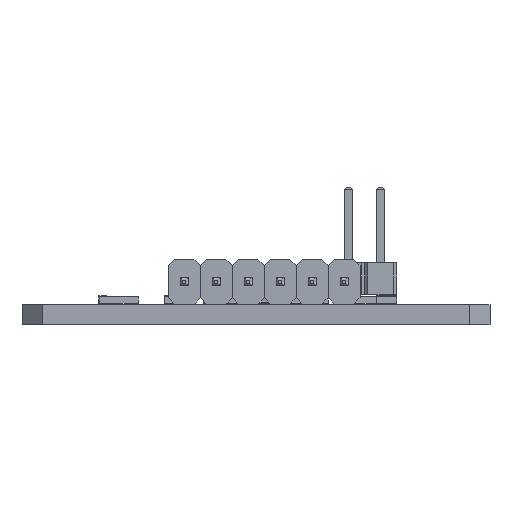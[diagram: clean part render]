
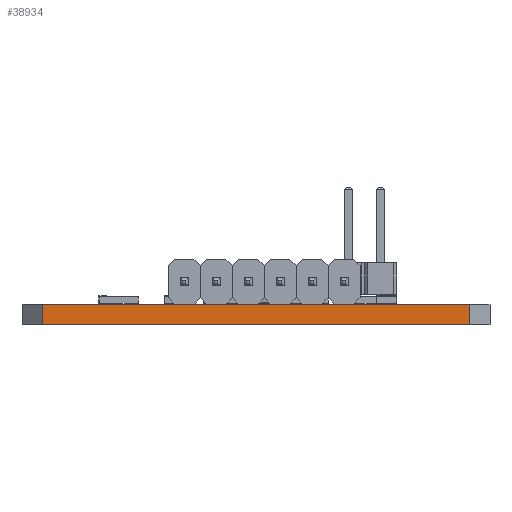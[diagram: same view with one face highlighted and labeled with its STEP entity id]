
A CAD part, front view. The second image highlights one B-rep face of the part: STEP entity #38934.
In plain terms, the highlighted planar face has unit normal (0, -1, 0).
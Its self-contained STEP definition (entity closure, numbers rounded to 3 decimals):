
#37916 = PLANE('',#37917);
#37917 = AXIS2_PLACEMENT_3D('',#37918,#37919,#37920);
#37918 = CARTESIAN_POINT('',(118.2,-127.2,1.6));
#37919 = DIRECTION('',(0.,0.,-1.));
#37920 = DIRECTION('',(-1.,0.,0.));
#37970 = PLANE('',#37971);
#37971 = AXIS2_PLACEMENT_3D('',#37972,#37973,#37974);
#37972 = CARTESIAN_POINT('',(118.2,-127.2,0.));
#37973 = DIRECTION('',(0.,0.,-1.));
#37974 = DIRECTION('',(-1.,0.,0.));
#38163 = VERTEX_POINT('',#38164);
#38164 = CARTESIAN_POINT('',(135.2,-148.8,0.));
#38178 = PLANE('',#38179);
#38179 = AXIS2_PLACEMENT_3D('',#38180,#38181,#38182);
#38180 = CARTESIAN_POINT('',(136.8,-147.2,0.));
#38181 = DIRECTION('',(0.707,-0.707,0.));
#38182 = DIRECTION('',(-0.707,-0.707,0.));
#38190 = EDGE_CURVE('',#38163,#38191,#38193,.T.);
#38191 = VERTEX_POINT('',#38192);
#38192 = CARTESIAN_POINT('',(101.2,-148.8,0.));
#38193 = SURFACE_CURVE('',#38194,(#38198,#38205),.PCURVE_S1.);
#38194 = LINE('',#38195,#38196);
#38195 = CARTESIAN_POINT('',(135.2,-148.8,0.));
#38196 = VECTOR('',#38197,1.);
#38197 = DIRECTION('',(-1.,0.,0.));
#38198 = PCURVE('',#37970,#38199);
#38199 = DEFINITIONAL_REPRESENTATION('',(#38200),#38204);
#38200 = LINE('',#38201,#38202);
#38201 = CARTESIAN_POINT('',(-17.,-21.6));
#38202 = VECTOR('',#38203,1.);
#38203 = DIRECTION('',(1.,0.));
#38204 = ( GEOMETRIC_REPRESENTATION_CONTEXT(2) 
PARAMETRIC_REPRESENTATION_CONTEXT() REPRESENTATION_CONTEXT('2D SPACE',''
  ) );
#38205 = PCURVE('',#38206,#38211);
#38206 = PLANE('',#38207);
#38207 = AXIS2_PLACEMENT_3D('',#38208,#38209,#38210);
#38208 = CARTESIAN_POINT('',(135.2,-148.8,0.));
#38209 = DIRECTION('',(0.,-1.,0.));
#38210 = DIRECTION('',(-1.,0.,0.));
#38211 = DEFINITIONAL_REPRESENTATION('',(#38212),#38216);
#38212 = LINE('',#38213,#38214);
#38213 = CARTESIAN_POINT('',(0.,0.));
#38214 = VECTOR('',#38215,1.);
#38215 = DIRECTION('',(1.,0.));
#38216 = ( GEOMETRIC_REPRESENTATION_CONTEXT(2) 
PARAMETRIC_REPRESENTATION_CONTEXT() REPRESENTATION_CONTEXT('2D SPACE',''
  ) );
#38234 = PLANE('',#38235);
#38235 = AXIS2_PLACEMENT_3D('',#38236,#38237,#38238);
#38236 = CARTESIAN_POINT('',(101.2,-148.8,0.));
#38237 = DIRECTION('',(-0.707,-0.707,0.));
#38238 = DIRECTION('',(-0.707,0.707,0.));
#38521 = VERTEX_POINT('',#38522);
#38522 = CARTESIAN_POINT('',(135.2,-148.8,1.6));
#38543 = EDGE_CURVE('',#38521,#38544,#38546,.T.);
#38544 = VERTEX_POINT('',#38545);
#38545 = CARTESIAN_POINT('',(101.2,-148.8,1.6));
#38546 = SURFACE_CURVE('',#38547,(#38551,#38558),.PCURVE_S1.);
#38547 = LINE('',#38548,#38549);
#38548 = CARTESIAN_POINT('',(135.2,-148.8,1.6));
#38549 = VECTOR('',#38550,1.);
#38550 = DIRECTION('',(-1.,0.,0.));
#38551 = PCURVE('',#37916,#38552);
#38552 = DEFINITIONAL_REPRESENTATION('',(#38553),#38557);
#38553 = LINE('',#38554,#38555);
#38554 = CARTESIAN_POINT('',(-17.,-21.6));
#38555 = VECTOR('',#38556,1.);
#38556 = DIRECTION('',(1.,0.));
#38557 = ( GEOMETRIC_REPRESENTATION_CONTEXT(2) 
PARAMETRIC_REPRESENTATION_CONTEXT() REPRESENTATION_CONTEXT('2D SPACE',''
  ) );
#38558 = PCURVE('',#38206,#38559);
#38559 = DEFINITIONAL_REPRESENTATION('',(#38560),#38564);
#38560 = LINE('',#38561,#38562);
#38561 = CARTESIAN_POINT('',(0.,-1.6));
#38562 = VECTOR('',#38563,1.);
#38563 = DIRECTION('',(1.,0.));
#38564 = ( GEOMETRIC_REPRESENTATION_CONTEXT(2) 
PARAMETRIC_REPRESENTATION_CONTEXT() REPRESENTATION_CONTEXT('2D SPACE',''
  ) );
#38886 = EDGE_CURVE('',#38163,#38521,#38887,.T.);
#38887 = SURFACE_CURVE('',#38888,(#38892,#38899),.PCURVE_S1.);
#38888 = LINE('',#38889,#38890);
#38889 = CARTESIAN_POINT('',(135.2,-148.8,0.));
#38890 = VECTOR('',#38891,1.);
#38891 = DIRECTION('',(0.,0.,1.));
#38892 = PCURVE('',#38178,#38893);
#38893 = DEFINITIONAL_REPRESENTATION('',(#38894),#38898);
#38894 = LINE('',#38895,#38896);
#38895 = CARTESIAN_POINT('',(2.263,0.));
#38896 = VECTOR('',#38897,1.);
#38897 = DIRECTION('',(0.,-1.));
#38898 = ( GEOMETRIC_REPRESENTATION_CONTEXT(2) 
PARAMETRIC_REPRESENTATION_CONTEXT() REPRESENTATION_CONTEXT('2D SPACE',''
  ) );
#38899 = PCURVE('',#38206,#38900);
#38900 = DEFINITIONAL_REPRESENTATION('',(#38901),#38905);
#38901 = LINE('',#38902,#38903);
#38902 = CARTESIAN_POINT('',(0.,0.));
#38903 = VECTOR('',#38904,1.);
#38904 = DIRECTION('',(0.,-1.));
#38905 = ( GEOMETRIC_REPRESENTATION_CONTEXT(2) 
PARAMETRIC_REPRESENTATION_CONTEXT() REPRESENTATION_CONTEXT('2D SPACE',''
  ) );
#38934 = ADVANCED_FACE('',(#38935),#38206,.T.);
#38935 = FACE_BOUND('',#38936,.T.);
#38936 = EDGE_LOOP('',(#38937,#38938,#38939,#38960));
#38937 = ORIENTED_EDGE('',*,*,#38886,.T.);
#38938 = ORIENTED_EDGE('',*,*,#38543,.T.);
#38939 = ORIENTED_EDGE('',*,*,#38940,.F.);
#38940 = EDGE_CURVE('',#38191,#38544,#38941,.T.);
#38941 = SURFACE_CURVE('',#38942,(#38946,#38953),.PCURVE_S1.);
#38942 = LINE('',#38943,#38944);
#38943 = CARTESIAN_POINT('',(101.2,-148.8,0.));
#38944 = VECTOR('',#38945,1.);
#38945 = DIRECTION('',(0.,0.,1.));
#38946 = PCURVE('',#38206,#38947);
#38947 = DEFINITIONAL_REPRESENTATION('',(#38948),#38952);
#38948 = LINE('',#38949,#38950);
#38949 = CARTESIAN_POINT('',(34.,0.));
#38950 = VECTOR('',#38951,1.);
#38951 = DIRECTION('',(0.,-1.));
#38952 = ( GEOMETRIC_REPRESENTATION_CONTEXT(2) 
PARAMETRIC_REPRESENTATION_CONTEXT() REPRESENTATION_CONTEXT('2D SPACE',''
  ) );
#38953 = PCURVE('',#38234,#38954);
#38954 = DEFINITIONAL_REPRESENTATION('',(#38955),#38959);
#38955 = LINE('',#38956,#38957);
#38956 = CARTESIAN_POINT('',(0.,0.));
#38957 = VECTOR('',#38958,1.);
#38958 = DIRECTION('',(0.,-1.));
#38959 = ( GEOMETRIC_REPRESENTATION_CONTEXT(2) 
PARAMETRIC_REPRESENTATION_CONTEXT() REPRESENTATION_CONTEXT('2D SPACE',''
  ) );
#38960 = ORIENTED_EDGE('',*,*,#38190,.F.);
